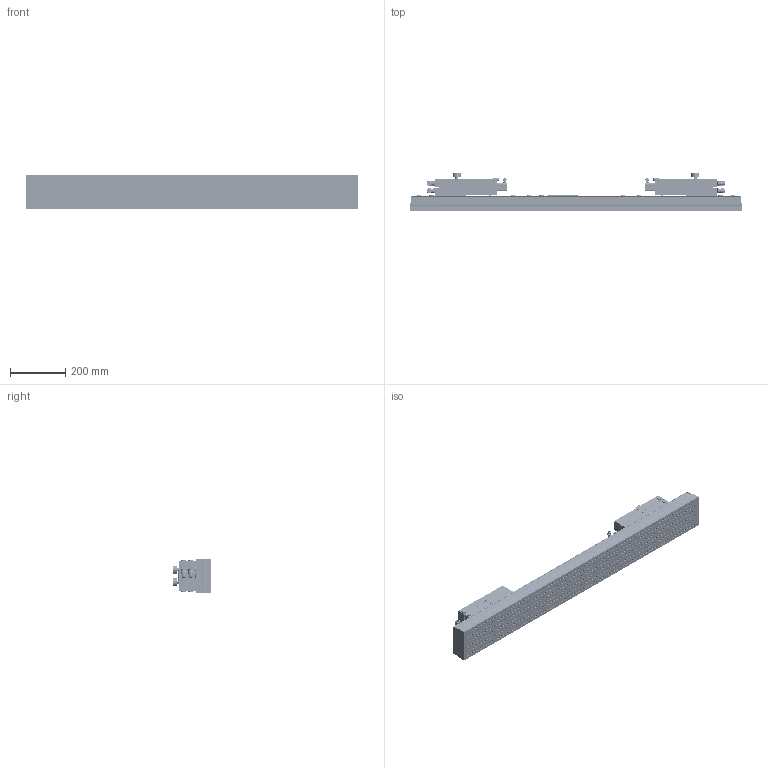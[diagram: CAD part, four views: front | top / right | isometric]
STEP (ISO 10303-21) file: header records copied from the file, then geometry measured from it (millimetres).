
FILE_DESCRIPTION (( 'STEP AP203' ), '1' );
FILE_NAME ('3-9-23083.STEP', '2014-03-28T08:54:03', ( '' ), ( '' ), 'SwSTEP 2.0', 'SolidWorks 2014', '' );
FILE_SCHEMA (( 'CONFIG_CONTROL_DESIGN' ));
Length unit declared in the file: millimetre
Products named in the file (1): 3-9-23083
Bounding box: 1206 x 141 x 126 mm (x, y, z)
Volume: 10246895.9 mm3; surface area: 1075591 mm2
Topology: 1 solids, 1 shells, 2969 faces, 6473 edges, 4185 vertices
Faces by surface type: plane 1603, cylinder 1060, cone 194, bspline 104, sphere 8
Full cylindrical faces by diameter (mm): 4 x4, 5.5 x4, 6 x8, 6.5 x4, 6.8 x12, 7.8 x4, 8 x467, 8.5 x4, 9 x12, 9.2 x4, 10.7 x6, 11 x4, 12 x4, 12.7 x4, 14.8 x48, 15 x18, 15.4 x16, 16.8 x4, 17 x43, 17.7 x4, 18 x4, 19.5 x4, 27 x2, 29 x2, 30 x2
Entity records: 101615 total; most frequent: CARTESIAN_POINT 39684, DIRECTION 13200, ORIENTED_EDGE 10908, EDGE_CURVE 5454, AXIS2_PLACEMENT_3D 5248, EDGE_LOOP 4534, VERTEX_POINT 4020, FACE_OUTER_BOUND 3749
